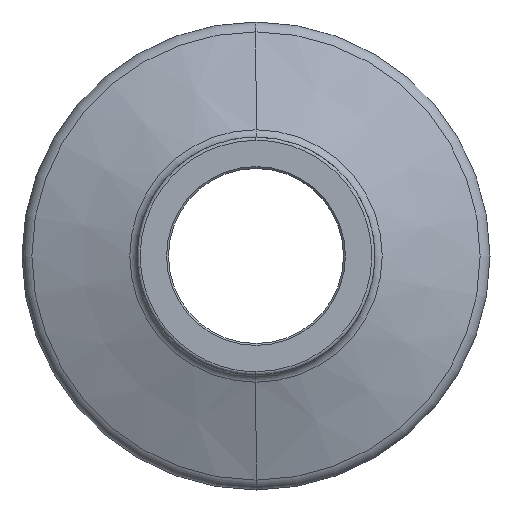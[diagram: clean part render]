
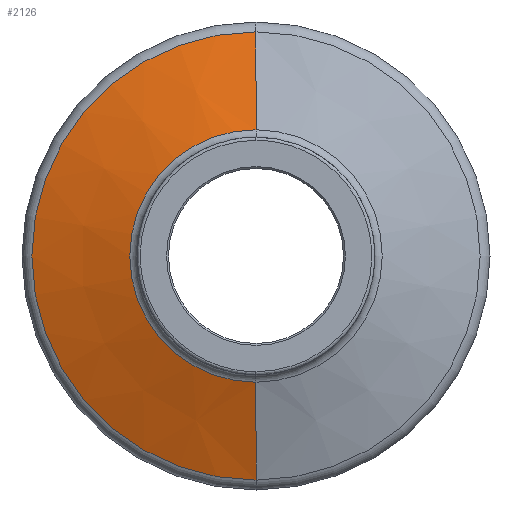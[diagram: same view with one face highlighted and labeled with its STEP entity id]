
A CAD part, left-side view. The second image highlights one B-rep face of the part: STEP entity #2126.
In plain terms, the highlighted conical face has half-angle 70 degrees and reference radius 6.745 mm.
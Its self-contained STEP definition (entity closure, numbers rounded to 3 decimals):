
#21 = CARTESIAN_POINT ( 'NONE',  ( -7.695, 0., -6.745 ) ) ;
#32 = DIRECTION ( 'NONE',  ( 0., 0., 1. ) ) ;
#38 = CARTESIAN_POINT ( 'NONE',  ( -7.695, 0., 6.745 ) ) ;
#47 = DIRECTION ( 'NONE',  ( 0.342, 0., 0.94 ) ) ;
#148 = DIRECTION ( 'NONE',  ( 0., 0., -1. ) ) ;
#151 = CARTESIAN_POINT ( 'NONE',  ( -5.792, 0., 11.974 ) ) ;
#157 = ORIENTED_EDGE ( 'NONE', *, *, #774, .F. ) ;
#181 = DIRECTION ( 'NONE',  ( -1., 0., 0. ) ) ;
#184 = DIRECTION ( 'NONE',  ( -1., 0., 0. ) ) ;
#230 = LINE ( 'NONE', #38, #1847 ) ;
#347 = CARTESIAN_POINT ( 'NONE',  ( -7.695, 0., 0. ) ) ;
#426 = EDGE_LOOP ( 'NONE', ( #157, #617, #1760, #1896 ) ) ;
#508 = DIRECTION ( 'NONE',  ( 1., 0., 0. ) ) ;
#540 = VERTEX_POINT ( 'NONE', #1373 ) ;
#571 = AXIS2_PLACEMENT_3D ( 'NONE', #347, #181, #32 ) ;
#617 = ORIENTED_EDGE ( 'NONE', *, *, #1622, .T. ) ;
#620 = DIRECTION ( 'NONE',  ( 0., 0., -1. ) ) ;
#667 = CIRCLE ( 'NONE', #571, 6.745 ) ;
#719 = CONICAL_SURFACE ( 'NONE', #1749, 6.745, 1.222 ) ;
#725 = DIRECTION ( 'NONE',  ( 0.342, 0., -0.94 ) ) ;
#762 = CARTESIAN_POINT ( 'NONE',  ( -5.792, 0., -11.974 ) ) ;
#774 = EDGE_CURVE ( 'NONE', #540, #1951, #667, .T. ) ;
#884 = VERTEX_POINT ( 'NONE', #151 ) ;
#1185 = LINE ( 'NONE', #1708, #1598 ) ;
#1373 = CARTESIAN_POINT ( 'NONE',  ( -7.695, 0., 6.745 ) ) ;
#1504 = AXIS2_PLACEMENT_3D ( 'NONE', #1604, #184, #620 ) ;
#1598 = VECTOR ( 'NONE', #725, 1000. ) ;
#1604 = CARTESIAN_POINT ( 'NONE',  ( -5.792, 0., 0. ) ) ;
#1622 = EDGE_CURVE ( 'NONE', #540, #884, #230, .T. ) ;
#1645 = CARTESIAN_POINT ( 'NONE',  ( -7.695, 0., 0. ) ) ;
#1676 = CIRCLE ( 'NONE', #1504, 11.974 ) ;
#1695 = EDGE_CURVE ( 'NONE', #1951, #1735, #1185, .T. ) ;
#1708 = CARTESIAN_POINT ( 'NONE',  ( -7.695, 0., -6.745 ) ) ;
#1735 = VERTEX_POINT ( 'NONE', #762 ) ;
#1749 = AXIS2_PLACEMENT_3D ( 'NONE', #1645, #508, #148 ) ;
#1760 = ORIENTED_EDGE ( 'NONE', *, *, #1945, .T. ) ;
#1847 = VECTOR ( 'NONE', #47, 1000. ) ;
#1896 = ORIENTED_EDGE ( 'NONE', *, *, #1695, .F. ) ;
#1945 = EDGE_CURVE ( 'NONE', #884, #1735, #1676, .T. ) ;
#1951 = VERTEX_POINT ( 'NONE', #21 ) ;
#2118 = FACE_OUTER_BOUND ( 'NONE', #426, .T. ) ;
#2126 = ADVANCED_FACE ( 'NONE', ( #2118 ), #719, .T. ) ;
